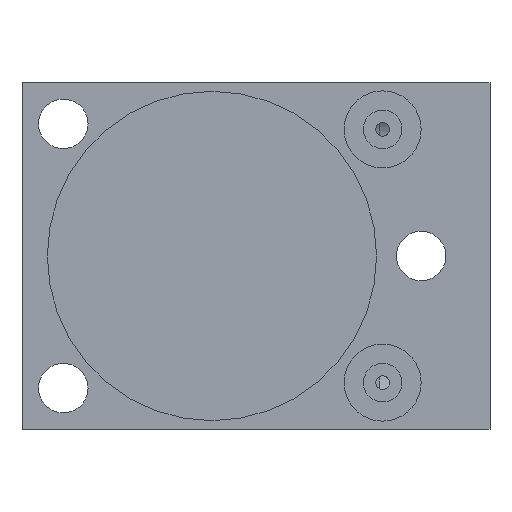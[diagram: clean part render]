
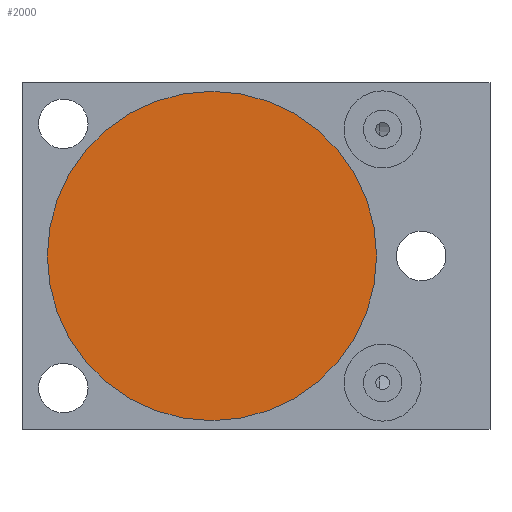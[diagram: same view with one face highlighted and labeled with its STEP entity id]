
A CAD part, front view. The second image highlights one B-rep face of the part: STEP entity #2000.
In plain terms, the highlighted planar face has unit normal (0, -1, 0).
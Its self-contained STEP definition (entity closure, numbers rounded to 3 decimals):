
#10 = DIRECTION ( 'NONE',  ( 0., 0., -1. ) ) ;
#61 = DIRECTION ( 'NONE',  ( 0., -1., 0. ) ) ;
#727 = VERTEX_POINT ( 'NONE', #737 ) ;
#737 = CARTESIAN_POINT ( 'NONE',  ( 0., -57., 29.9 ) ) ;
#817 = DIRECTION ( 'NONE',  ( 0., 0., -1. ) ) ;
#827 = CARTESIAN_POINT ( 'NONE',  ( 0., -57., 0. ) ) ;
#1011 = ORIENTED_EDGE ( 'NONE', *, *, #2116, .T. ) ;
#1104 = AXIS2_PLACEMENT_3D ( 'NONE', #1251, #1566, #10 ) ;
#1192 = DIRECTION ( 'NONE',  ( 0., -1., 0. ) ) ;
#1210 = CIRCLE ( 'NONE', #1508, 29.9 ) ;
#1251 = CARTESIAN_POINT ( 'NONE',  ( 0., -57., 0. ) ) ;
#1268 = CIRCLE ( 'NONE', #1456, 29.9 ) ;
#1456 = AXIS2_PLACEMENT_3D ( 'NONE', #1526, #61, #2065 ) ;
#1508 = AXIS2_PLACEMENT_3D ( 'NONE', #827, #1192, #817 ) ;
#1526 = CARTESIAN_POINT ( 'NONE',  ( 0., -57., 0. ) ) ;
#1566 = DIRECTION ( 'NONE',  ( 0., -1., 0. ) ) ;
#1669 = EDGE_CURVE ( 'NONE', #727, #2224, #1210, .T. ) ;
#1823 = EDGE_LOOP ( 'NONE', ( #2216, #1011 ) ) ;
#1972 = PLANE ( 'NONE',  #1104 ) ;
#2000 = ADVANCED_FACE ( 'NONE', ( #2330 ), #1972, .T. ) ;
#2065 = DIRECTION ( 'NONE',  ( 0., 0., -1. ) ) ;
#2116 = EDGE_CURVE ( 'NONE', #2224, #727, #1268, .T. ) ;
#2216 = ORIENTED_EDGE ( 'NONE', *, *, #1669, .T. ) ;
#2224 = VERTEX_POINT ( 'NONE', #2292 ) ;
#2292 = CARTESIAN_POINT ( 'NONE',  ( 0., -57., -29.9 ) ) ;
#2330 = FACE_OUTER_BOUND ( 'NONE', #1823, .T. ) ;
